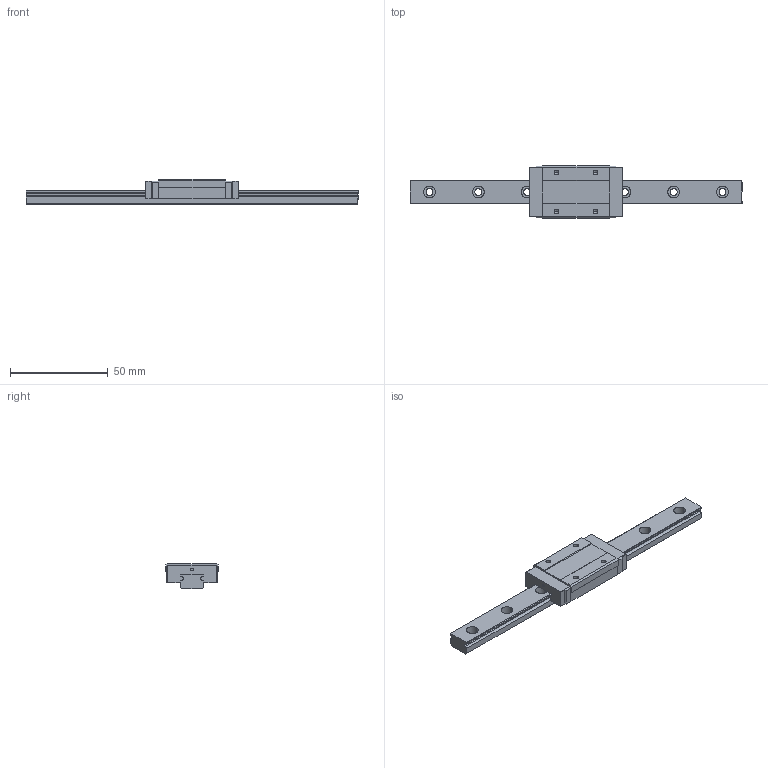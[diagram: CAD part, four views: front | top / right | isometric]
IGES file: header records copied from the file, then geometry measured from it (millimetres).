
Global section: file name: No Iges File Name specified; native system: AutoDesk Inventor R11.0; preprocessor: AutoDesk Inventor Iges Exporter R11.0; author: No Author specified; organization: No Organization specified; date: 20150221.131411; units: millimetre
Bounding box: 170 x 27 x 13 mm (x, y, z)
Surface area: 12581.4 mm2 (no closed solid volume)
Topology: 0 solids, 0 shells, 129 faces, 860 edges, 852 vertices
Faces by surface type: bspline 129
